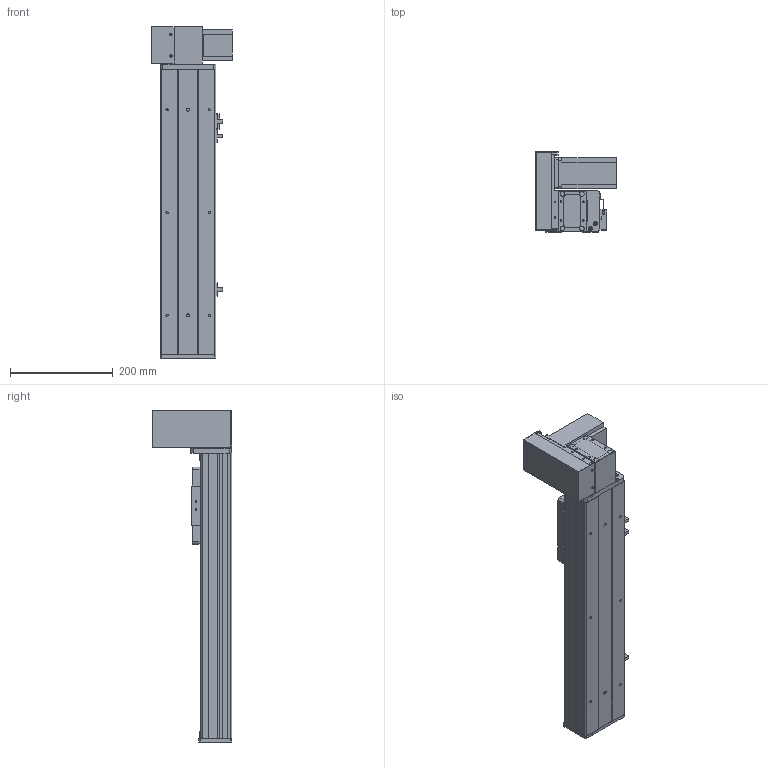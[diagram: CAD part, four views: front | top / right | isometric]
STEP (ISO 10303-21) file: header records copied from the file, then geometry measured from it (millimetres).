
FILE_DESCRIPTION (( 'STEP AP203' ), '1' );
FILE_NAME ('Y10CB-D90-S300-UL-P400W.STEP', '2020-02-16T04:28:34', ( '微软用户' ), ( '微软中国' ), 'SwSTEP 2.0', 'SolidWorks 2017', '' );
FILE_SCHEMA (( 'CONFIG_CONTROL_DESIGN' ));
Length unit declared in the file: millimetre
Products named in the file (18): 0CB-雄赽釱---; 0Cb-俋欶---; Y10B-々湍喘謫眊楊擘啣--; 0B-萇儂楊擘啣; san松下电机400不带刹车----; 0B-源倛裔啣; 0B-埴倛裔啣; 10CB-詩湍-; Y10CB- 掛极耜裔啣-毀---; Y10C---詩湍揤啣; 10CB9-掛极; 10CB-耜裔; Y135C-陔俋离換覜結え-; 00B-俋欶BM--; Y10B--々湍喘謫眊--666; Y10CB-D90-S300-UL-P400W; Y100-135俋离換覜ん--; Y10B-耜蚾蟀諉啣----
Assembly tree (21 placements, depth 2):
  Y10CB-D90-S300-UL-P400W
    0CB-雄赽釱---
    0Cb-俋欶---
    Y10B-々湍喘謫眊楊擘啣--
    0B-萇儂楊擘啣
    san松下电机400不带刹车----
    0B-源倛裔啣
    0B-埴倛裔啣
    10CB-詩湍-
    Y10CB- 掛极耜裔啣-毀---  x2
    Y10C---詩湍揤啣  x2
    10CB9-掛极
    10CB-耜裔
    Y135C-陔俋离換覜結え-
    Y100-135俋离換覜ん--  x3
    Y10B-耜蚾蟀諉啣----
    00B-俋欶BM--
    Y10B--々湍喘謫眊--666
Bounding box: 157 x 155.5 x 646 mm (x, y, z)
Volume: 1914583.3 mm3; surface area: 795180.3 mm2
Topology: 21 solids, 21 shells, 942 faces, 2483 edges, 1634 vertices
Faces by surface type: plane 469, cylinder 449, cone 24
Entity records: 28912 total; most frequent: CARTESIAN_POINT 4877, DIRECTION 4726, ORIENTED_EDGE 4436, EDGE_CURVE 2218, AXIS2_PLACEMENT_3D 1693, VERTEX_POINT 1460, LINE 1340, VECTOR 1340
